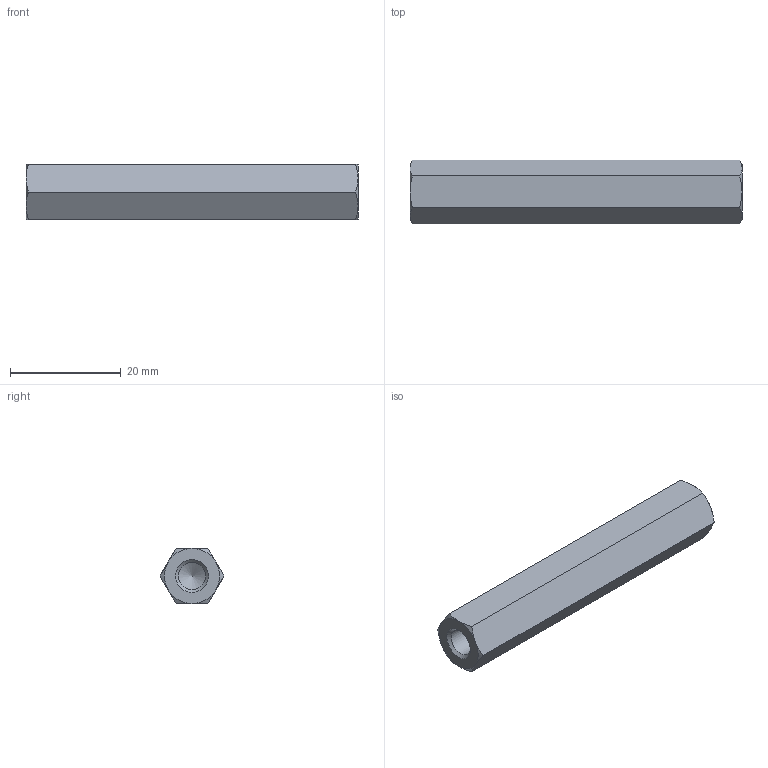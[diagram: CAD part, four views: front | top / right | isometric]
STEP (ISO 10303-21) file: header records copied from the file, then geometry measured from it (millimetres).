
FILE_DESCRIPTION( ( 'STEP AP203' ), '1' );
FILE_NAME( 'C:/Temp/Ganter_Step_05_03_2020/data/3_2/gn6220/gn6220_st/Spacer GN 6220-ST-M6-60-A.stp', '2020-03-13T05:42:30', ( 'License CC BY-ND 4.0' ), ( 'CADENAS' ), ' ', 'PARTsolutions', ' ' );
FILE_SCHEMA( ( 'CONFIG_CONTROL_DESIGN' ) );
Length unit declared in the file: millimetre
Products named in the file (1): _Spacer GN 6220-ST-M6-60-A
Bounding box: 60 x 11.55 x 10 mm (x, y, z)
Volume: 4521.1 mm3; surface area: 2769.1 mm2
Topology: 1 solids, 1 shells, 26 faces, 57 edges, 33 vertices
Faces by surface type: cone 16, plane 8, cylinder 2
Full cylindrical faces by diameter (mm): 4.917 x2
Entity records: 766 total; most frequent: CARTESIAN_POINT 227, DIRECTION 96, ORIENTED_EDGE 96, EDGE_CURVE 48, AXIS2_PLACEMENT_3D 45, EDGE_LOOP 32, VERTEX_POINT 32, FACE_OUTER_BOUND 28
